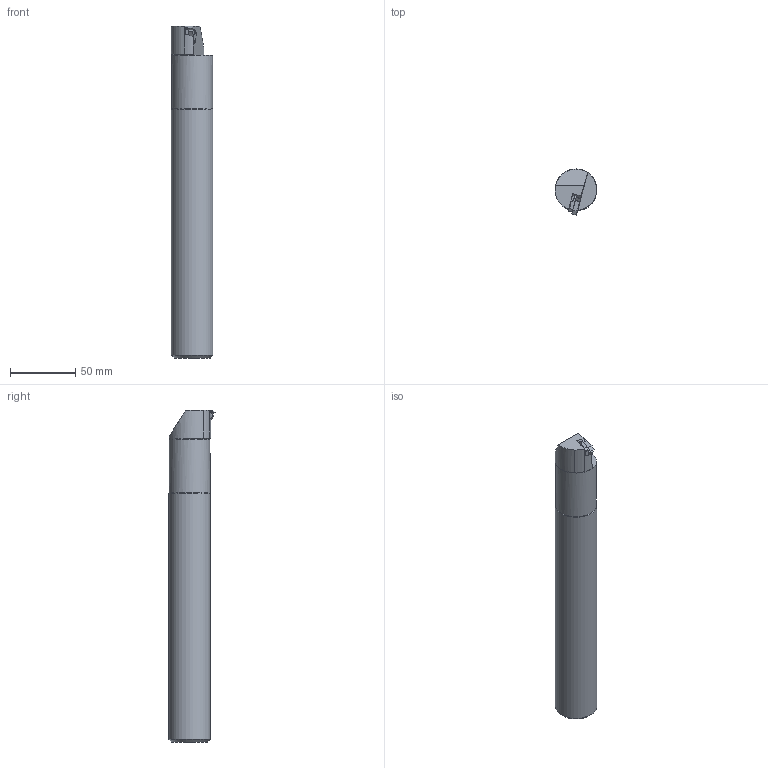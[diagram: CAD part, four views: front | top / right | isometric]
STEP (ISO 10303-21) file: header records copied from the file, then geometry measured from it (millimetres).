
FILE_DESCRIPTION (( 'STEP AP203' ), '1' );
FILE_NAME ('IRH125-16.STEP', '2020-11-09T01:12:51', ( '' ), ( '' ), 'SwSTEP 2.0', 'SolidWorks 2015', '' );
FILE_SCHEMA (( 'CONFIG_CONTROL_DESIGN' ));
Length unit declared in the file: millimetre
Products named in the file (5): IRH125-16_ル遽; IRH125-16; IR16_ル遽; ATI16_ル遽
Assembly tree (4 placements, depth 3):
  IRH125-16
    IRH125-16
      IRH125-16_ル遽
      ATI16_ル遽
      IR16_ル遽
Bounding box: 32.02 x 35.43 x 254.01 mm (x, y, z)
Volume: 192511.9 mm3; surface area: 26954.7 mm2
Topology: 3 solids, 3 shells, 58 faces, 145 edges, 93 vertices
Faces by surface type: plane 39, cylinder 14, cone 5
Full cylindrical faces by diameter (mm): 3.5 x1, 3.95 x1, 31.3 x1, 31.75 x1
Entity records: 2252 total; most frequent: CARTESIAN_POINT 370, DIRECTION 289, ORIENTED_EDGE 274, EDGE_CURVE 137, VECTOR 99, LINE 99, AXIS2_PLACEMENT_3D 95, VERTEX_POINT 92
